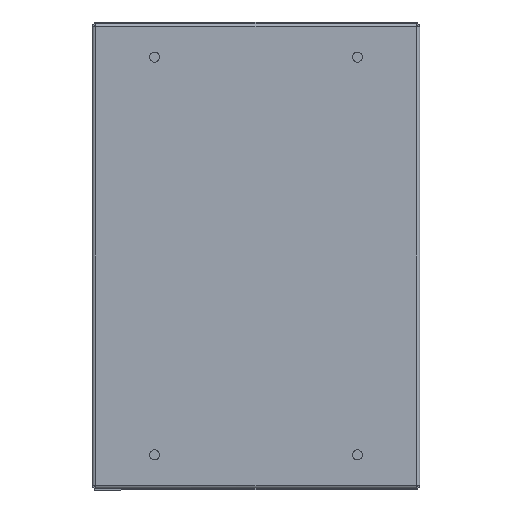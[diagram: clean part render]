
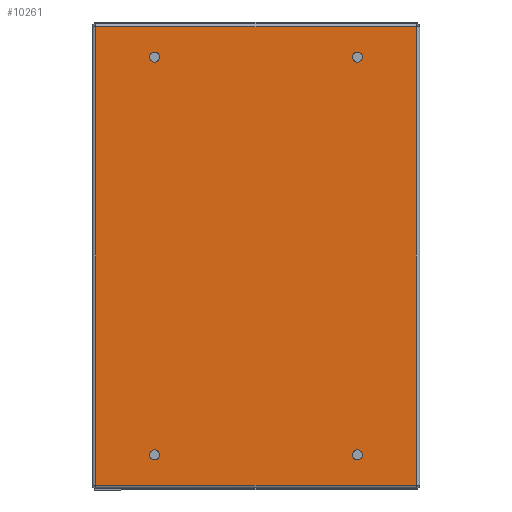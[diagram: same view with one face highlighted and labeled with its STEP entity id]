
A CAD part, front view. The second image highlights one B-rep face of the part: STEP entity #10261.
In plain terms, the highlighted planar face has unit normal (0, -1, 0).
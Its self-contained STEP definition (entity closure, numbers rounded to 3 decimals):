
#58 = VERTEX_POINT ( 'NONE', #5340 ) ;
#70 = ORIENTED_EDGE ( 'NONE', *, *, #12591, .T. ) ;
#241 = VERTEX_POINT ( 'NONE', #11032 ) ;
#376 = VERTEX_POINT ( 'NONE', #5274 ) ;
#455 = CARTESIAN_POINT ( 'NONE',  ( -102.8, 0., -149. ) ) ;
#462 = ORIENTED_EDGE ( 'NONE', *, *, #1614, .T. ) ;
#728 = CARTESIAN_POINT ( 'NONE',  ( -61.75, 0., 127.5 ) ) ;
#884 = AXIS2_PLACEMENT_3D ( 'NONE', #5093, #8692, #3470 ) ;
#895 = ORIENTED_EDGE ( 'NONE', *, *, #2932, .F. ) ;
#990 = AXIS2_PLACEMENT_3D ( 'NONE', #10539, #4192, #1159 ) ;
#999 = AXIS2_PLACEMENT_3D ( 'NONE', #455, #9844, #2462 ) ;
#1005 = DIRECTION ( 'NONE',  ( 1., 0., 0. ) ) ;
#1028 = VERTEX_POINT ( 'NONE', #2508 ) ;
#1159 = DIRECTION ( 'NONE',  ( 1., 0., 0. ) ) ;
#1238 = AXIS2_PLACEMENT_3D ( 'NONE', #6648, #3544, #4563 ) ;
#1348 = AXIS2_PLACEMENT_3D ( 'NONE', #4954, #9173, #13260 ) ;
#1430 = EDGE_CURVE ( 'NONE', #11643, #241, #13233, .T. ) ;
#1614 = EDGE_CURVE ( 'NONE', #2205, #3264, #5299, .T. ) ;
#1728 = CARTESIAN_POINT ( 'NONE',  ( 102.8, 0., -146.8 ) ) ;
#1758 = DIRECTION ( 'NONE',  ( -1., 0., 0. ) ) ;
#1988 = CIRCLE ( 'NONE', #1238, 3.25 ) ;
#2162 = EDGE_LOOP ( 'NONE', ( #10571, #3781 ) ) ;
#2202 = ORIENTED_EDGE ( 'NONE', *, *, #11153, .T. ) ;
#2205 = VERTEX_POINT ( 'NONE', #5001 ) ;
#2213 = VERTEX_POINT ( 'NONE', #7171 ) ;
#2296 = CARTESIAN_POINT ( 'NONE',  ( 65., 0., -127.5 ) ) ;
#2307 = DIRECTION ( 'NONE',  ( 0., 0., 1. ) ) ;
#2334 = VERTEX_POINT ( 'NONE', #7399 ) ;
#2385 = FACE_BOUND ( 'NONE', #5866, .T. ) ;
#2430 = CIRCLE ( 'NONE', #8948, 3.25 ) ;
#2462 = DIRECTION ( 'NONE',  ( -1., 0., 0. ) ) ;
#2508 = CARTESIAN_POINT ( 'NONE',  ( 102.8, 0., -146.8 ) ) ;
#2916 = CARTESIAN_POINT ( 'NONE',  ( -102.8, 0., -146.8 ) ) ;
#2932 = EDGE_CURVE ( 'NONE', #3316, #2334, #4929, .T. ) ;
#3033 = FACE_OUTER_BOUND ( 'NONE', #11068, .T. ) ;
#3168 = ORIENTED_EDGE ( 'NONE', *, *, #5952, .T. ) ;
#3262 = DIRECTION ( 'NONE',  ( 1., 0., 0. ) ) ;
#3264 = VERTEX_POINT ( 'NONE', #11386 ) ;
#3316 = VERTEX_POINT ( 'NONE', #4242 ) ;
#3470 = DIRECTION ( 'NONE',  ( 1., 0., 0. ) ) ;
#3544 = DIRECTION ( 'NONE',  ( 0., 1., 0. ) ) ;
#3699 = DIRECTION ( 'NONE',  ( 0., 1., 0. ) ) ;
#3781 = ORIENTED_EDGE ( 'NONE', *, *, #1430, .T. ) ;
#4192 = DIRECTION ( 'NONE',  ( 0., 1., 0. ) ) ;
#4200 = DIRECTION ( 'NONE',  ( -1., 0., 0. ) ) ;
#4242 = CARTESIAN_POINT ( 'NONE',  ( -102.8, 0., -146.8 ) ) ;
#4246 = CIRCLE ( 'NONE', #5540, 3.25 ) ;
#4288 = CARTESIAN_POINT ( 'NONE',  ( 102.8, 0., 146.8 ) ) ;
#4326 = CARTESIAN_POINT ( 'NONE',  ( -65., 0., -127.5 ) ) ;
#4418 = PLANE ( 'NONE',  #999 ) ;
#4563 = DIRECTION ( 'NONE',  ( -1., 0., 0. ) ) ;
#4929 = LINE ( 'NONE', #8693, #10718 ) ;
#4954 = CARTESIAN_POINT ( 'NONE',  ( 65., 0., -127.5 ) ) ;
#5001 = CARTESIAN_POINT ( 'NONE',  ( 68.25, 0., -127.5 ) ) ;
#5093 = CARTESIAN_POINT ( 'NONE',  ( -65., 0., -127.5 ) ) ;
#5236 = EDGE_CURVE ( 'NONE', #3264, #2205, #2430, .T. ) ;
#5274 = CARTESIAN_POINT ( 'NONE',  ( 61.75, 0., 127.5 ) ) ;
#5299 = CIRCLE ( 'NONE', #1348, 3.25 ) ;
#5340 = CARTESIAN_POINT ( 'NONE',  ( 68.25, 0., 127.5 ) ) ;
#5495 = VERTEX_POINT ( 'NONE', #13204 ) ;
#5540 = AXIS2_PLACEMENT_3D ( 'NONE', #9035, #3699, #1758 ) ;
#5866 = EDGE_LOOP ( 'NONE', ( #7909, #2202 ) ) ;
#5903 = AXIS2_PLACEMENT_3D ( 'NONE', #10260, #8050, #9150 ) ;
#5952 = EDGE_CURVE ( 'NONE', #5495, #7648, #10912, .T. ) ;
#5996 = VECTOR ( 'NONE', #1005, 1000. ) ;
#6266 = ORIENTED_EDGE ( 'NONE', *, *, #11851, .T. ) ;
#6288 = FACE_BOUND ( 'NONE', #2162, .T. ) ;
#6296 = AXIS2_PLACEMENT_3D ( 'NONE', #4326, #12649, #3262 ) ;
#6524 = VECTOR ( 'NONE', #6868, 1000. ) ;
#6540 = EDGE_LOOP ( 'NONE', ( #6902, #3168 ) ) ;
#6648 = CARTESIAN_POINT ( 'NONE',  ( 65., 0., 127.5 ) ) ;
#6868 = DIRECTION ( 'NONE',  ( 0., 0., 1. ) ) ;
#6902 = ORIENTED_EDGE ( 'NONE', *, *, #8792, .T. ) ;
#7171 = CARTESIAN_POINT ( 'NONE',  ( 102.8, 0., 146.8 ) ) ;
#7399 = CARTESIAN_POINT ( 'NONE',  ( -102.8, 0., 146.8 ) ) ;
#7471 = EDGE_CURVE ( 'NONE', #376, #58, #1988, .T. ) ;
#7626 = EDGE_LOOP ( 'NONE', ( #8737, #462 ) ) ;
#7648 = VERTEX_POINT ( 'NONE', #728 ) ;
#7793 = LINE ( 'NONE', #4288, #10483 ) ;
#7829 = ORIENTED_EDGE ( 'NONE', *, *, #12534, .T. ) ;
#7909 = ORIENTED_EDGE ( 'NONE', *, *, #7471, .T. ) ;
#8050 = DIRECTION ( 'NONE',  ( 0., 1., 0. ) ) ;
#8243 = FACE_BOUND ( 'NONE', #6540, .T. ) ;
#8584 = DIRECTION ( 'NONE',  ( -1., 0., 0. ) ) ;
#8692 = DIRECTION ( 'NONE',  ( 0., 1., 0. ) ) ;
#8693 = CARTESIAN_POINT ( 'NONE',  ( -102.8, 0., -146.8 ) ) ;
#8707 = CARTESIAN_POINT ( 'NONE',  ( -68.25, 0., -127.5 ) ) ;
#8737 = ORIENTED_EDGE ( 'NONE', *, *, #5236, .T. ) ;
#8792 = EDGE_CURVE ( 'NONE', #7648, #5495, #9037, .T. ) ;
#8948 = AXIS2_PLACEMENT_3D ( 'NONE', #2296, #10653, #8584 ) ;
#9035 = CARTESIAN_POINT ( 'NONE',  ( 65., 0., 127.5 ) ) ;
#9037 = CIRCLE ( 'NONE', #990, 3.25 ) ;
#9150 = DIRECTION ( 'NONE',  ( 1., 0., 0. ) ) ;
#9173 = DIRECTION ( 'NONE',  ( 0., 1., 0. ) ) ;
#9281 = FACE_BOUND ( 'NONE', #7626, .T. ) ;
#9844 = DIRECTION ( 'NONE',  ( 0., -1., 0. ) ) ;
#9936 = CIRCLE ( 'NONE', #884, 3.25 ) ;
#10260 = CARTESIAN_POINT ( 'NONE',  ( -65., 0., 127.5 ) ) ;
#10261 = ADVANCED_FACE ( 'NONE', ( #3033, #6288, #8243, #2385, #9281 ), #4418, .T. ) ;
#10483 = VECTOR ( 'NONE', #4200, 1000. ) ;
#10539 = CARTESIAN_POINT ( 'NONE',  ( -65., 0., 127.5 ) ) ;
#10571 = ORIENTED_EDGE ( 'NONE', *, *, #13574, .T. ) ;
#10653 = DIRECTION ( 'NONE',  ( 0., 1., 0. ) ) ;
#10718 = VECTOR ( 'NONE', #2307, 1000. ) ;
#10912 = CIRCLE ( 'NONE', #5903, 3.25 ) ;
#11032 = CARTESIAN_POINT ( 'NONE',  ( -61.75, 0., -127.5 ) ) ;
#11068 = EDGE_LOOP ( 'NONE', ( #7829, #6266, #70, #895 ) ) ;
#11153 = EDGE_CURVE ( 'NONE', #58, #376, #4246, .T. ) ;
#11386 = CARTESIAN_POINT ( 'NONE',  ( 61.75, 0., -127.5 ) ) ;
#11624 = LINE ( 'NONE', #2916, #5996 ) ;
#11643 = VERTEX_POINT ( 'NONE', #8707 ) ;
#11663 = LINE ( 'NONE', #1728, #6524 ) ;
#11851 = EDGE_CURVE ( 'NONE', #1028, #2213, #11663, .T. ) ;
#12534 = EDGE_CURVE ( 'NONE', #3316, #1028, #11624, .T. ) ;
#12591 = EDGE_CURVE ( 'NONE', #2213, #2334, #7793, .T. ) ;
#12649 = DIRECTION ( 'NONE',  ( 0., 1., 0. ) ) ;
#13204 = CARTESIAN_POINT ( 'NONE',  ( -68.25, 0., 127.5 ) ) ;
#13233 = CIRCLE ( 'NONE', #6296, 3.25 ) ;
#13260 = DIRECTION ( 'NONE',  ( -1., 0., 0. ) ) ;
#13574 = EDGE_CURVE ( 'NONE', #241, #11643, #9936, .T. ) ;
